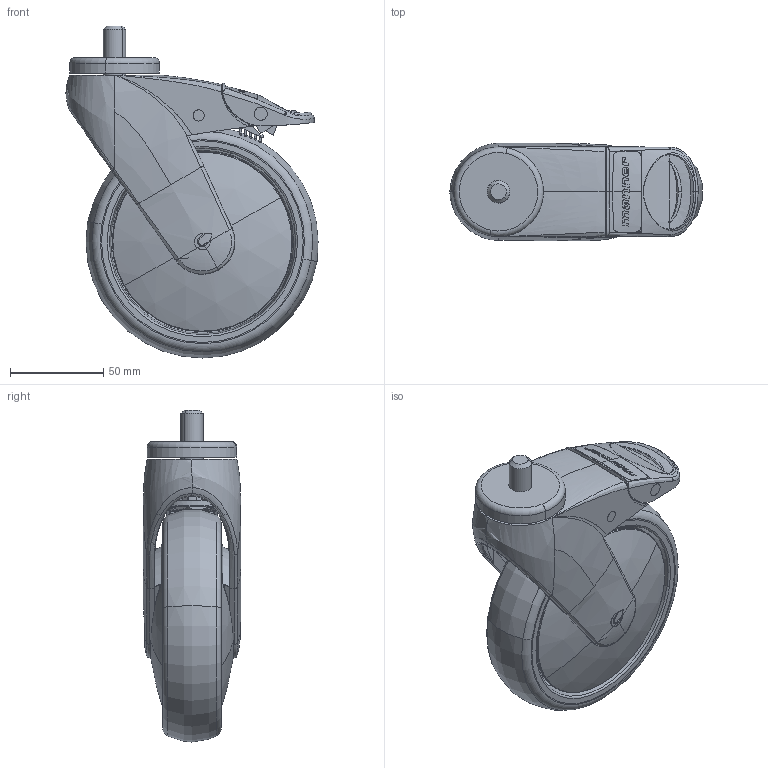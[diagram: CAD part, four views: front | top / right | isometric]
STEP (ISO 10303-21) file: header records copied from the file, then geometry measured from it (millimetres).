
FILE_DESCRIPTION (( 'STEP AP203' ), '1' );
FILE_NAME ('301656_STEP.STEP', '2011-06-10T11:01:34', ( '' ), ( '' ), 'SwSTEP 2.0', 'SolidWorks 2011', '' );
FILE_SCHEMA (( 'CONFIG_CONTROL_DESIGN' ));
Length unit declared in the file: millimetre
Products named in the file (1): 301656_STEP
Bounding box: 134.88 x 52 x 177.6 mm (x, y, z)
Surface area: 115255.1 mm2 (no closed solid volume)
Topology: 0 solids, 32 shells, 570 faces, 2674 edges, 2070 vertices
Faces by surface type: bspline 304, plane 121, cylinder 70, torus 42, cone 29, sphere 4
Entity records: 94413 total; most frequent: CARTESIAN_POINT 77583, ORIENTED_EDGE 4322, EDGE_CURVE 2660, VERTEX_POINT 2070, DIRECTION 1754, B_SPLINE_CURVE_WITH_KNOTS 1736, AXIS2_PLACEMENT_3D 636, EDGE_LOOP 603
